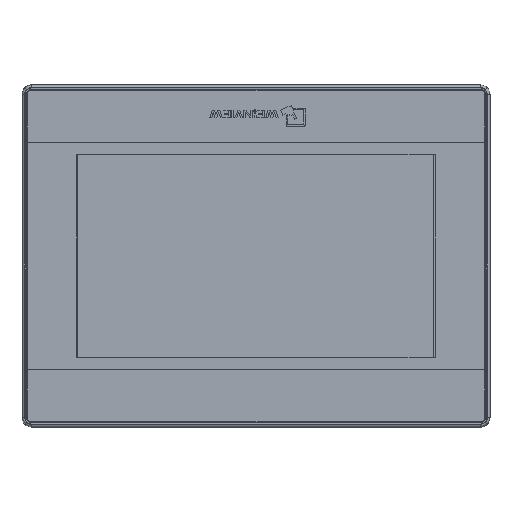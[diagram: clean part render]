
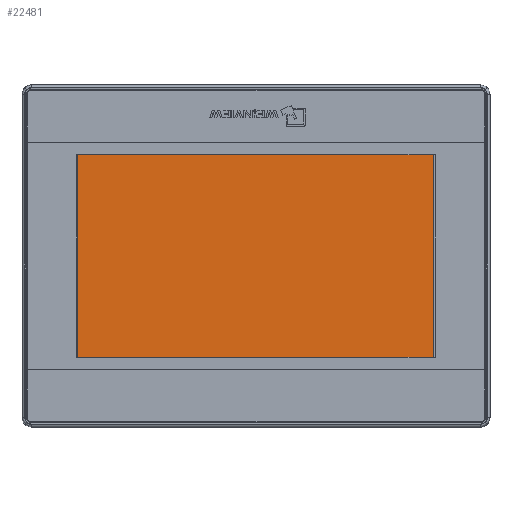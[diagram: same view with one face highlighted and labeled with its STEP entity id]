
A CAD part, top view. The second image highlights one B-rep face of the part: STEP entity #22481.
In plain terms, the highlighted planar face has unit normal (0, 0, 1).
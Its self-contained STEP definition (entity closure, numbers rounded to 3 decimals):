
#9682 = EDGE_CURVE ( 'NONE', #52209, #52202, #60476, .T. ) ;
#9695 = EDGE_CURVE ( 'NONE', #52634, #52209, #60518, .T. ) ;
#9697 = EDGE_CURVE ( 'NONE', #52202, #52204, #60524, .T. ) ;
#9720 = EDGE_CURVE ( 'NONE', #52204, #52634, #60579, .T. ) ;
#13059 = AXIS2_PLACEMENT_3D ( 'NONE', #36124, #36137, #36139 ) ;
#22481 = ADVANCED_FACE ( 'NONE', ( #36131 ), #36133, .T. ) ;
#26196 = ORIENTED_EDGE ( 'NONE', *, *, #9720, .T. ) ;
#26198 = ORIENTED_EDGE ( 'NONE', *, *, #9697, .T. ) ;
#26204 = ORIENTED_EDGE ( 'NONE', *, *, #9682, .T. ) ;
#26211 = ORIENTED_EDGE ( 'NONE', *, *, #9695, .T. ) ;
#33920 = CARTESIAN_POINT ( 'NONE',  ( 76.25, -45.55, 3.51 ) ) ;
#36124 = CARTESIAN_POINT ( 'NONE',  ( 86.65, 53.57, 3.51 ) ) ;
#36131 = FACE_OUTER_BOUND ( 'NONE', #61877, .T. ) ;
#36133 = PLANE ( 'NONE',  #13059 ) ;
#36137 = DIRECTION ( 'NONE',  ( 0., 0., 1. ) ) ;
#36139 = DIRECTION ( 'NONE',  ( -1., 0., 0. ) ) ;
#37097 = CARTESIAN_POINT ( 'NONE',  ( -76.15, -45.55, 3.51 ) ) ;
#37101 = CARTESIAN_POINT ( 'NONE',  ( -76.15, 45.89, 3.51 ) ) ;
#37111 = CARTESIAN_POINT ( 'NONE',  ( 76.25, 45.89, 3.51 ) ) ;
#52202 = VERTEX_POINT ( 'NONE', #37101 ) ;
#52204 = VERTEX_POINT ( 'NONE', #37097 ) ;
#52209 = VERTEX_POINT ( 'NONE', #37111 ) ;
#52634 = VERTEX_POINT ( 'NONE', #33920 ) ;
#59565 = VECTOR ( 'NONE', #60605, 1000. ) ;
#59608 = VECTOR ( 'NONE', #60526, 1000. ) ;
#59611 = VECTOR ( 'NONE', #60520, 1000. ) ;
#59645 = VECTOR ( 'NONE', #60479, 1000. ) ;
#60476 = LINE ( 'NONE', #60478, #59645 ) ;
#60478 = CARTESIAN_POINT ( 'NONE',  ( 0.05, 45.89, 3.51 ) ) ;
#60479 = DIRECTION ( 'NONE',  ( -1., 0., 0. ) ) ;
#60518 = LINE ( 'NONE', #60519, #59611 ) ;
#60519 = CARTESIAN_POINT ( 'NONE',  ( 76.25, 0.17, 3.51 ) ) ;
#60520 = DIRECTION ( 'NONE',  ( 0., 1., 0. ) ) ;
#60524 = LINE ( 'NONE', #60525, #59608 ) ;
#60525 = CARTESIAN_POINT ( 'NONE',  ( -76.15, 0.17, 3.51 ) ) ;
#60526 = DIRECTION ( 'NONE',  ( 0., -1., 0. ) ) ;
#60579 = LINE ( 'NONE', #60604, #59565 ) ;
#60604 = CARTESIAN_POINT ( 'NONE',  ( 0.05, -45.55, 3.51 ) ) ;
#60605 = DIRECTION ( 'NONE',  ( 1., 0., 0. ) ) ;
#61877 = EDGE_LOOP ( 'NONE', ( #26211, #26204, #26198, #26196 ) ) ;
